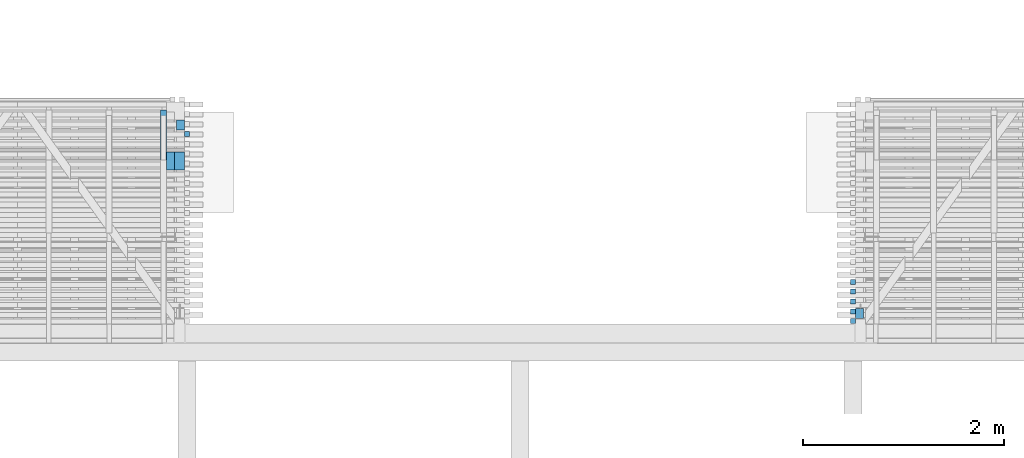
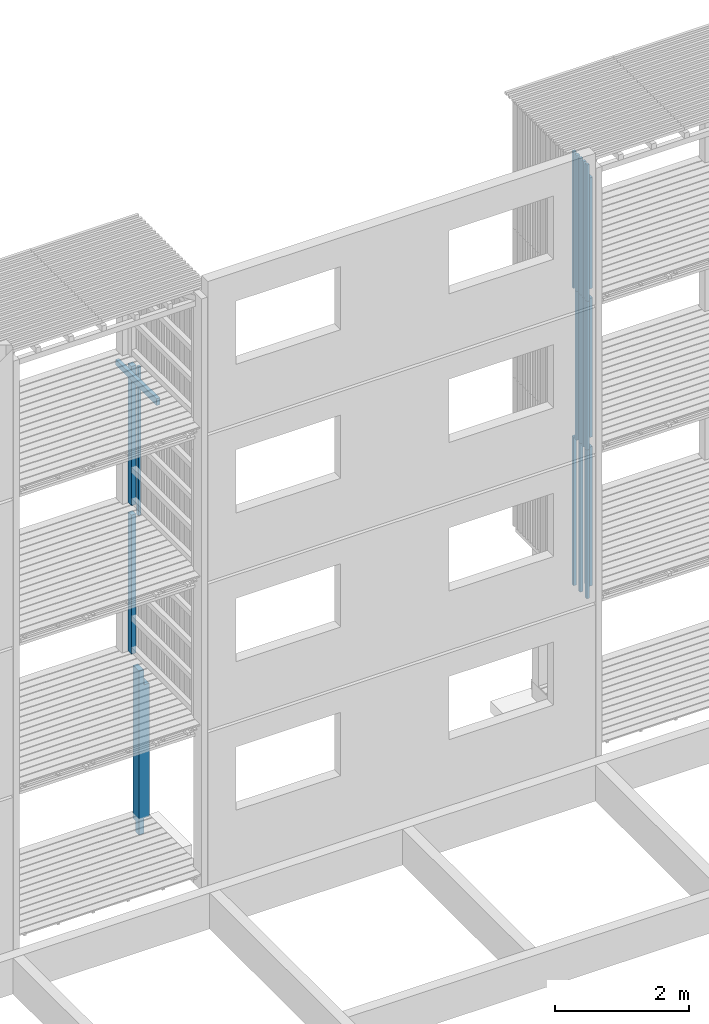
# One storey, part 109 of 182: 20 beams.
"""IFC2X3 building model written with IfcOpenShell, lengths in metres."""

import ifcopenshell
import ifcopenshell.guid

model = None  # the IFC model being written
_history = None  # IfcOwnerHistory: only IFC2X3 demands one
_inside = {}  # id of a spatial element -> (the spatial element, [elements in it])
_under = {}  # id of a project, library or spatial element -> (it, [spatial elements below it])
_declared = {}  # id of a project -> (the project, [libraries it declares])
_typed = {}  # id of a type object -> (the type object, [elements of that type])
_made_of = {}  # id of a material, layer set ... -> (it, [elements and type objects made of it])


def new_model(schema):
    """Start an empty IFC model of exactly this schema.

    Asked for "IFC4X3", IfcOpenShell would pick the latest addendum, in which some entities
    have other attributes; the version numbers below select the first issue.
    IFC2X3 requires an IfcOwnerHistory on every rooted entity: one is made here for all.
    """
    global model, _history
    if schema == "IFC4X3":
        model = ifcopenshell.file(schema_version=(4, 3, 0, 0))
    else:
        model = ifcopenshell.file(schema=schema)
    _inside.clear()
    _under.clear()
    _declared.clear()
    _typed.clear()
    _made_of.clear()
    _history = None
    if model.schema == "IFC2X3":
        org = make("IfcOrganization", Name="unknown")
        user = make(
            "IfcPersonAndOrganization",
            ThePerson=make("IfcPerson", FamilyName="unknown"),
            TheOrganization=org,
        )
        app = make(
            "IfcApplication",
            ApplicationDeveloper=org,
            Version="unknown",
            ApplicationFullName="unknown",
            ApplicationIdentifier="unknown",
        )
        _history = make(
            "IfcOwnerHistory",
            OwningUser=user,
            OwningApplication=app,
            ChangeAction="ADDED",
            CreationDate=0,
        )
    return model


def make(cls, **values):
    """One entity of the class cls with the attributes given. An attribute that is None is left unset."""
    return model.create_entity(
        cls, **{name: value for name, value in values.items() if value is not None}
    )


def rooted(cls, **values):
    """An entity with a GlobalId (a new one), such as an element, a storey or a relation."""
    return make(cls, GlobalId=ifcopenshell.guid.new(), OwnerHistory=_history, **values)


def si_unit(unit_type, name, prefix=None):
    """IfcSIUnit, for example si_unit("LENGTHUNIT", "METRE", prefix="MILLI")."""
    return make("IfcSIUnit", UnitType=unit_type, Prefix=prefix, Name=name)


def assignment(units):
    """IfcUnitAssignment: the units of a project."""
    return None if units is None else make("IfcUnitAssignment", Units=units)


def point(xyz):
    """IfcCartesianPoint."""
    return None if xyz is None else make("IfcCartesianPoint", Coordinates=xyz)


def direction(xyz):
    """IfcDirection."""
    return None if xyz is None else make("IfcDirection", DirectionRatios=xyz)


def frame(location, z_axis=None, x_axis=None):
    """IfcAxis2Placement3D, a coordinate frame: its origin and axes. An axis left out is left unset."""
    return make(
        "IfcAxis2Placement3D",
        Location=point(location),
        Axis=direction(z_axis),
        RefDirection=direction(x_axis),
    )


def origin():
    """The frame at (0, 0, 0) with its axes left unset."""
    return frame((0.0, 0.0, 0.0))


def place(relative_to, where):
    """IfcLocalPlacement: puts the frame where relative to a parent placement (None: the world)."""
    return make(
        "IfcLocalPlacement", PlacementRelTo=relative_to, RelativePlacement=where
    )


def context(
    kind, dimensions, precision=None, world=None, true_north=None, identifier=None
):
    """IfcGeometricRepresentationContext, for example the 3D "Model" context."""
    return make(
        "IfcGeometricRepresentationContext",
        ContextIdentifier=identifier,
        ContextType=kind,
        CoordinateSpaceDimension=dimensions,
        Precision=precision,
        WorldCoordinateSystem=world,
        TrueNorth=true_north,
    )


def project(units=None, contexts=None):
    """IfcProject with its units and contexts."""
    return rooted(
        "IfcProject",
        Name="project",
        RepresentationContexts=contexts,
        UnitsInContext=assignment(units),
    )


def spatial(cls, under=None, at=None, **own):
    """A site, building, storey or space (cls), placed at a placement, below another one or the project."""
    s = rooted(cls, ObjectPlacement=at, **own)
    if under is not None:
        _under.setdefault(under.id(), (under, []))[1].append(s)
    return s


def faces_of(points, faces, orient=None, outer=None):
    """IfcFace entities. A face is a list of loops; a loop is a list of indices into points, from 0.

    orient and outer hold one flag for each loop. By default every Orientation is true, the
    first loop of a face is its IfcFaceOuterBound and the others are IfcFaceBound.
    """
    made = []
    for i, loops in enumerate(faces):
        bounds = []
        for j, loop in enumerate(loops):
            is_outer = j == 0 if outer is None else outer[i][j]
            bounds.append(
                make(
                    "IfcFaceOuterBound" if is_outer else "IfcFaceBound",
                    Bound=make("IfcPolyLoop", Polygon=[points[k] for k in loop]),
                    Orientation=True if orient is None else orient[i][j],
                )
            )
        made.append(make("IfcFace", Bounds=bounds))
    return made


def faceted_brep(points, faces, orient=None, outer=None, voids=None):
    """IfcFacetedBrep: a solid bounded by flat faces; with voids (closed shells), ...WithVoids."""
    shared = [point(p) for p in points]
    hull = make("IfcClosedShell", CfsFaces=faces_of(shared, faces, orient, outer))
    if voids is None:
        return make("IfcFacetedBrep", Outer=hull)
    return make(
        "IfcFacetedBrepWithVoids",
        Outer=hull,
        Voids=[
            make(cls, CfsFaces=faces_of(shared, fs, o, b)) for cls, fs, o, b in voids
        ],
    )


def shape(context_of_items, identifier, shape_type, items):
    """IfcShapeRepresentation: the items that make up one representation, for example the "Body"."""
    return make(
        "IfcShapeRepresentation",
        ContextOfItems=context_of_items,
        RepresentationIdentifier=identifier,
        RepresentationType=shape_type,
        Items=items,
    )


def made_of(thing, what):
    """Note that an element or type object is made of a material, layer set ...; save() writes the relation."""
    if what is not None:
        _made_of.setdefault(what.id(), (what, []))[1].append(thing)
    return thing


def element(
    cls,
    number,
    at=None,
    inside=None,
    cuts=None,
    type_object=None,
    material=None,
    context=None,
    identifier="Body",
    shape_type=None,
    held_by="IfcProductDefinitionShape",
    body=None,
    shapes=None,
    **own,
):
    """One element of the class cls, such as IfcWall. Its Tag is "e" and its number.

    at: its placement. inside: the storey or other place that contains it. cuts: it is an
    opening in that element (IfcRelVoidsElement). A single representation is given by context,
    identifier, shape_type and body (its items); several are given by shapes. held_by: the class
    of the entity that holds the representations. save() writes the other relations.
    """
    e = rooted(cls, Tag="e%d" % number, ObjectPlacement=at, **own)
    if body is not None:
        shapes = [shape(context, identifier, shape_type, body)]
    if shapes is not None:
        e.Representation = make(held_by, Representations=shapes)
    if inside is not None:
        _inside.setdefault(inside.id(), (inside, []))[1].append(e)
    if cuts is not None:
        rooted(
            "IfcRelVoidsElement", RelatingBuildingElement=cuts, RelatedOpeningElement=e
        )
    if type_object is not None:
        _typed.setdefault(type_object.id(), (type_object, []))[1].append(e)
    return made_of(e, material)


def aggregate(whole, parts):
    """IfcRelAggregates: a whole, such as a stair, and the parts it consists of."""
    return rooted("IfcRelAggregates", RelatingObject=whole, RelatedObjects=parts)


def save(model, path):
    """Write the relations noted so far, then the file.

    IfcRelAggregates (storeys below a building ...), IfcRelContainedInSpatialStructure (elements
    in a storey), IfcRelDefinesByType, IfcRelAssociatesMaterial and IfcRelDeclares: one each for
    every whole, place, type object, material and project.
    """
    for whole, parts in _under.values():
        aggregate(whole, parts)
    for where, things in _inside.values():
        rooted(
            "IfcRelContainedInSpatialStructure",
            RelatedElements=things,
            RelatingStructure=where,
        )
    for kind, things in _typed.values():
        rooted("IfcRelDefinesByType", RelatedObjects=things, RelatingType=kind)
    for what, things in _made_of.values():
        rooted("IfcRelAssociatesMaterial", RelatedObjects=things, RelatingMaterial=what)
    for by, libraries in _declared.values():
        rooted("IfcRelDeclares", RelatingContext=by, RelatedDefinitions=libraries)
    model.write(path)


model = new_model("IFC2X3")

# Units and contexts
model_context = context("Model", 3, precision=1e-06, world=origin())
ifc_project = project(units=[si_unit("LENGTHUNIT", "METRE"), si_unit("PLANEANGLEUNIT", "RADIAN")], contexts=[model_context])

# Site, building, storey
site = spatial("IfcSite", under=ifc_project, CompositionType="ELEMENT")
building = spatial("IfcBuilding", under=site, CompositionType="ELEMENT")
storey = spatial("IfcBuildingStorey", under=building, Name="vs", CompositionType="ELEMENT", Elevation=-0.85)

# Beams
placement = place(None, origin())
beam_1_placement = place(placement, frame((53.06499999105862, 5.160077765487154, 2.746999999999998), z_axis=(0.0, 1.0, 0.0), x_axis=(0.0, 0.0, 1.0)))
element("IfcBeam", 1, at=beam_1_placement, inside=storey, Name="Support bardage", context=model_context, shape_type="Brep", body=[
    faceted_brep([(2.527961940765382, 0.040000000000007, -0.050000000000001), (2.527961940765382, 0.040000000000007, 0.05), (2.527961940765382, -0.039999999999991, 0.05), (2.527961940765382, -0.039999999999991, -0.050000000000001), (0.0, 0.040000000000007, -0.050000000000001), (2.527961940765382, 0.040000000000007, -0.050000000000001), (2.527961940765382, -0.039999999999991, -0.050000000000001), (0.0, -0.039999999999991, -0.050000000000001), (0.0, 0.040000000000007, -0.050000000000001), (0.0, -0.039999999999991, -0.050000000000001), (0.0, -0.039999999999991, 0.05), (0.0, 0.040000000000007, 0.05), (0.0, 0.040000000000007, -0.050000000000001), (0.0, 0.040000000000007, 0.05), (2.527961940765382, 0.040000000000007, 0.05), (2.527961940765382, 0.040000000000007, -0.050000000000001), (0.0, 0.040000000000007, 0.05), (0.0, -0.039999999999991, 0.05), (2.527961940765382, -0.039999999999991, 0.05), (2.527961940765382, 0.040000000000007, 0.05), (0.0, -0.039999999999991, 0.05), (0.0, -0.039999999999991, -0.050000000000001), (2.527961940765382, -0.039999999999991, -0.050000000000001), (2.527961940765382, -0.039999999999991, 0.05)], [[[0, 1, 2, 3]], [[4, 5, 6, 7]], [[8, 9, 10, 11]], [[12, 13, 14, 15]], [[16, 17, 18, 19]], [[20, 21, 22, 23]]]),
])
beam_2_placement = place(placement, frame((53.06499999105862, 5.160077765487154, 5.446999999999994), z_axis=(0.0, 1.0, 0.0), x_axis=(0.0, 0.0, 1.0)))
element("IfcBeam", 2, at=beam_2_placement, inside=storey, Name="Support bardage", context=model_context, shape_type="Brep", body=[
    faceted_brep([(2.527999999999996, -0.039999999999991, -0.050000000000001), (2.527999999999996, 0.040000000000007, -0.050000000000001), (2.527999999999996, 0.040000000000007, 0.05), (2.527999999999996, -0.039999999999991, 0.05), (-1e-15, -0.039999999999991, -0.050000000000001), (2.527999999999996, -0.039999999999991, -0.050000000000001), (2.527999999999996, -0.039999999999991, 0.05), (-1e-15, -0.039999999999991, 0.05), (-1e-15, -0.039999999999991, -0.050000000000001), (-1e-15, -0.039999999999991, 0.05), (-1e-15, 0.040000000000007, 0.05), (-1e-15, 0.040000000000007, -0.050000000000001), (-1e-15, -0.039999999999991, -0.050000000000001), (-1e-15, 0.040000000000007, -0.050000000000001), (2.527999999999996, 0.040000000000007, -0.050000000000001), (2.527999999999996, -0.039999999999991, -0.050000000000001), (-1e-15, 0.040000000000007, -0.050000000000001), (-1e-15, 0.040000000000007, 0.05), (2.527999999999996, 0.040000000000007, 0.05), (2.527999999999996, 0.040000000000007, -0.050000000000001), (-1e-15, 0.040000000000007, 0.05), (-1e-15, -0.039999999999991, 0.05), (2.527999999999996, -0.039999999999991, 0.05), (2.527999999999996, 0.040000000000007, 0.05)], [[[0, 1, 2, 3]], [[4, 5, 6, 7]], [[8, 9, 10, 11]], [[12, 13, 14, 15]], [[16, 17, 18, 19]], [[20, 21, 22, 23]]]),
])
beam_3_placement = place(placement, frame((52.999999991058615, 5.281441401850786, 2.575000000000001), z_axis=(1.0, 0.0, 0.0), x_axis=(0.0, 0.0, 1.0)))
element("IfcBeam", 3, at=beam_3_placement, inside=storey, Name="Bardage", context=model_context, shape_type="Brep", body=[
    faceted_brep([(2.699961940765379, -0.024999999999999, 0.025000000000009), (2.699961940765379, -0.024999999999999, -0.025000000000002), (2.699961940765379, 0.024999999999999, -0.025000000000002), (2.699961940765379, 0.024999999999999, 0.025000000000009), (0.0, -0.024999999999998, 0.025000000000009), (2.699961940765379, -0.024999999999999, 0.025000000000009), (2.699961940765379, 0.024999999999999, 0.025000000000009), (0.0, 0.024999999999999, 0.025000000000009), (0.0, -0.024999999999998, 0.025000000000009), (0.0, 0.024999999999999, 0.025000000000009), (0.0, 0.024999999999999, -0.025000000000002), (0.0, -0.024999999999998, -0.025000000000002), (0.0, -0.024999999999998, 0.025000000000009), (0.0, -0.024999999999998, -0.025000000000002), (2.699961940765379, -0.024999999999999, -0.025000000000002), (2.699961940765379, -0.024999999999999, 0.025000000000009), (0.0, -0.024999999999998, -0.025000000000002), (0.0, 0.024999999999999, -0.025000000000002), (2.699961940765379, 0.024999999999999, -0.025000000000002), (2.699961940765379, -0.024999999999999, -0.025000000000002), (0.0, 0.024999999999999, -0.025000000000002), (0.0, 0.024999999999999, 0.025000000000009), (2.699961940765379, 0.024999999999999, 0.025000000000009), (2.699961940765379, 0.024999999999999, -0.025000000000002)], [[[0, 1, 2, 3]], [[4, 5, 6, 7]], [[8, 9, 10, 11]], [[12, 13, 14, 15]], [[16, 17, 18, 19]], [[20, 21, 22, 23]]]),
])
beam_4_placement = place(placement, frame((52.999999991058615, 5.085077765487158, 5.274999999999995), z_axis=(1.0, 0.0, 0.0), x_axis=(0.0, 0.0, 1.0)))
element("IfcBeam", 4, at=beam_4_placement, inside=storey, Name="Bardage", context=model_context, shape_type="Brep", body=[
    faceted_brep([(2.699999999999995, 0.025000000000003, 0.025000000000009), (2.699999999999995, -0.024999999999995, 0.025000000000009), (2.699999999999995, -0.024999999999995, -0.025000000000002), (2.699999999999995, 0.025000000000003, -0.025000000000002), (1e-15, 0.025000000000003, 0.025000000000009), (2.699999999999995, 0.025000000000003, 0.025000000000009), (2.699999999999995, 0.025000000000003, -0.025000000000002), (1e-15, 0.025000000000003, -0.025000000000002), (1e-15, -0.024999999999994, 0.025000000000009), (1e-15, 0.025000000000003, 0.025000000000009), (1e-15, 0.025000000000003, -0.025000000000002), (1e-15, -0.024999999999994, -0.025000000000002), (1e-15, 0.025000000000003, 0.025000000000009), (1e-15, -0.024999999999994, 0.025000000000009), (2.699999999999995, -0.024999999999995, 0.025000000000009), (2.699999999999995, 0.025000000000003, 0.025000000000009), (1e-15, -0.024999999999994, 0.025000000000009), (1e-15, -0.024999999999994, -0.025000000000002), (2.699999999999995, -0.024999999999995, -0.025000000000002), (2.699999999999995, -0.024999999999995, 0.025000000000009), (1e-15, -0.024999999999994, -0.025000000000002), (1e-15, 0.025000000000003, -0.025000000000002), (2.699999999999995, 0.025000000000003, -0.025000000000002), (2.699999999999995, -0.024999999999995, -0.025000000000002)], [[[0, 1, 2, 3]], [[4, 5, 6, 7]], [[8, 9, 10, 11]], [[12, 13, 14, 15]], [[16, 17, 18, 19]], [[20, 21, 22, 23]]]),
])
beam_5_placement = place(placement, frame((52.999999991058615, 5.085077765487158, 2.575000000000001), z_axis=(1.0, 0.0, 0.0), x_axis=(0.0, 0.0, 1.0)))
element("IfcBeam", 5, at=beam_5_placement, inside=storey, Name="Bardage", context=model_context, shape_type="Brep", body=[
    faceted_brep([(2.699961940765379, -0.024999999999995, 0.025000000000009), (2.699961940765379, -0.024999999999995, -0.025000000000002), (2.699961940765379, 0.025000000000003, -0.025000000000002), (2.699961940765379, 0.025000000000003, 0.025000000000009), (0.0, -0.024999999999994, 0.025000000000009), (2.699961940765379, -0.024999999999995, 0.025000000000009), (2.699961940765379, 0.025000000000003, 0.025000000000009), (0.0, 0.025000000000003, 0.025000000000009), (0.0, -0.024999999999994, 0.025000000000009), (0.0, 0.025000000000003, 0.025000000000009), (0.0, 0.025000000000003, -0.025000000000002), (0.0, -0.024999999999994, -0.025000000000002), (0.0, -0.024999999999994, 0.025000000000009), (0.0, -0.024999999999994, -0.025000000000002), (2.699961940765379, -0.024999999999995, -0.025000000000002), (2.699961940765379, -0.024999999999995, 0.025000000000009), (0.0, -0.024999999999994, -0.025000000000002), (0.0, 0.025000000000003, -0.025000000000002), (2.699961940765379, 0.025000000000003, -0.025000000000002), (2.699961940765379, -0.024999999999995, -0.025000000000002), (0.0, 0.025000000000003, -0.025000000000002), (0.0, 0.025000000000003, 0.025000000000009), (2.699961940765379, 0.025000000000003, 0.025000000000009), (2.699961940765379, 0.025000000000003, -0.025000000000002)], [[[0, 1, 2, 3]], [[4, 5, 6, 7]], [[8, 9, 10, 11]], [[12, 13, 14, 15]], [[16, 17, 18, 19]], [[20, 21, 22, 23]]]),
])
beam_6_placement = place(placement, frame((52.999999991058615, 5.281441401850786, 7.974999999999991), z_axis=(1.0, 0.0, 0.0), x_axis=(0.0, 0.0, 1.0)))
element("IfcBeam", 6, at=beam_6_placement, inside=storey, Name="Bardage", context=model_context, shape_type="Brep", body=[
    faceted_brep([(0.0, -0.024999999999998, 0.025000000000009), (0.0, 0.024999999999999, 0.025000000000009), (0.0, 0.024999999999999, -0.025000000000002), (0.0, -0.024999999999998, -0.025000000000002), (2.479999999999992, 0.024999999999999, -0.025000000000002), (2.479999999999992, 0.024999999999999, 0.025000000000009), (2.479999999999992, -0.024999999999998, 0.025000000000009), (2.479999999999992, -0.024999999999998, -0.025000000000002), (0.0, 0.024999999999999, 0.025000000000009), (0.0, -0.024999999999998, 0.025000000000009), (2.479999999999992, -0.024999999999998, 0.025000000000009), (2.479999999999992, 0.024999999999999, 0.025000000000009), (0.0, 0.024999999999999, -0.025000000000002), (0.0, 0.024999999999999, 0.025000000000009), (2.479999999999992, 0.024999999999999, 0.025000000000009), (2.479999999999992, 0.024999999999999, -0.025000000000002), (0.0, -0.024999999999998, -0.025000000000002), (0.0, 0.024999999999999, -0.025000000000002), (2.479999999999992, 0.024999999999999, -0.025000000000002), (2.479999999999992, -0.024999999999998, -0.025000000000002), (2.479999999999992, -0.024999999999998, 0.025000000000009), (0.0, -0.024999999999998, 0.025000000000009), (0.0, -0.024999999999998, -0.025000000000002), (2.479999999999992, -0.024999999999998, -0.025000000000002)], [[[0, 1, 2, 3]], [[4, 5, 6, 7]], [[8, 9, 10, 11]], [[12, 13, 14, 15]], [[16, 17, 18, 19]], [[20, 21, 22, 23]]]),
])
beam_7_placement = place(placement, frame((52.999999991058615, 5.085077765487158, 7.974999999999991), z_axis=(1.0, 0.0, 0.0), x_axis=(0.0, 0.0, 1.0)))
element("IfcBeam", 7, at=beam_7_placement, inside=storey, Name="Bardage", context=model_context, shape_type="Brep", body=[
    faceted_brep([(0.0, -0.024999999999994, 0.025000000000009), (0.0, 0.025000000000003, 0.025000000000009), (0.0, 0.025000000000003, -0.025000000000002), (0.0, -0.024999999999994, -0.025000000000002), (2.479999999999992, 0.025000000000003, -0.025000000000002), (2.479999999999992, 0.025000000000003, 0.025000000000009), (2.479999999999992, -0.024999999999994, 0.025000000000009), (2.479999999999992, -0.024999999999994, -0.025000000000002), (0.0, 0.025000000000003, 0.025000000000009), (0.0, -0.024999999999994, 0.025000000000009), (2.479999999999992, -0.024999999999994, 0.025000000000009), (2.479999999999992, 0.025000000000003, 0.025000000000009), (0.0, 0.025000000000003, -0.025000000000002), (0.0, 0.025000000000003, 0.025000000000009), (2.479999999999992, 0.025000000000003, 0.025000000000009), (2.479999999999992, 0.025000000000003, -0.025000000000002), (0.0, -0.024999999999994, -0.025000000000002), (0.0, 0.025000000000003, -0.025000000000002), (2.479999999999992, 0.025000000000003, -0.025000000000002), (2.479999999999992, -0.024999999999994, -0.025000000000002), (2.479999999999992, -0.024999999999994, 0.025000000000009), (0.0, -0.024999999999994, 0.025000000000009), (0.0, -0.024999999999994, -0.025000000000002), (2.479999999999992, -0.024999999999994, -0.025000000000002)], [[[0, 1, 2, 3]], [[4, 5, 6, 7]], [[8, 9, 10, 11]], [[12, 13, 14, 15]], [[16, 17, 18, 19]], [[20, 21, 22, 23]]]),
])
for number, where, z_axis, x_axis in (
    (8, (52.999999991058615, 5.183259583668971, 7.974999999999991), (1.0, 0.0, 0.0), (0.0, 0.0, 1.0)),
    (9, (52.999999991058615, 5.477805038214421, 7.974999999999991), (1.0, 0.0, 0.0), (0.0, 0.0, 1.0)),
):
    element("IfcBeam", number, at=place(placement, frame(where, z_axis=z_axis, x_axis=x_axis)), inside=storey, Name="Bardage", context=model_context, shape_type="Brep", body=[
        faceted_brep([(0.0, -0.024999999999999, 0.025000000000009), (0.0, 0.025000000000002, 0.025000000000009), (0.0, 0.025000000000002, -0.025000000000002), (0.0, -0.024999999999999, -0.025000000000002), (2.479999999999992, 0.025000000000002, -0.025000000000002), (2.479999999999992, 0.025000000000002, 0.025000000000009), (2.479999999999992, -0.024999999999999, 0.025000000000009), (2.479999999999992, -0.024999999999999, -0.025000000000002), (0.0, 0.025000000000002, 0.025000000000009), (0.0, -0.024999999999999, 0.025000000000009), (2.479999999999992, -0.024999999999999, 0.025000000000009), (2.479999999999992, 0.025000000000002, 0.025000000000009), (0.0, 0.025000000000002, -0.025000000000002), (0.0, 0.025000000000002, 0.025000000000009), (2.479999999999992, 0.025000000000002, 0.025000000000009), (2.479999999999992, 0.025000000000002, -0.025000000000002), (0.0, -0.024999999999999, -0.025000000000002), (0.0, 0.025000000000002, -0.025000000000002), (2.479999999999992, 0.025000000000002, -0.025000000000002), (2.479999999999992, -0.024999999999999, -0.025000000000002), (2.479999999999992, -0.024999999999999, 0.025000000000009), (0.0, -0.024999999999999, 0.025000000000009), (0.0, -0.024999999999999, -0.025000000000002), (2.479999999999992, -0.024999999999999, -0.025000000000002)], [[[0, 1, 2, 3]], [[4, 5, 6, 7]], [[8, 9, 10, 11]], [[12, 13, 14, 15]], [[16, 17, 18, 19]], [[20, 21, 22, 23]]]),
    ])
beam_8_placement = place(placement, frame((52.999999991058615, 5.281441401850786, 5.274999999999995), z_axis=(1.0, 0.0, 0.0), x_axis=(0.0, 0.0, 1.0)))
element("IfcBeam", 10, at=beam_8_placement, inside=storey, Name="Bardage", context=model_context, shape_type="Brep", body=[
    faceted_brep([(2.699999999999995, 0.024999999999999, 0.025000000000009), (2.699999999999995, -0.024999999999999, 0.025000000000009), (2.699999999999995, -0.024999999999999, -0.025000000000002), (2.699999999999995, 0.024999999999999, -0.025000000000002), (1e-15, 0.024999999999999, 0.025000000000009), (2.699999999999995, 0.024999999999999, 0.025000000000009), (2.699999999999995, 0.024999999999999, -0.025000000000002), (1e-15, 0.024999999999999, -0.025000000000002), (1e-15, -0.024999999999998, 0.025000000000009), (1e-15, 0.024999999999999, 0.025000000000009), (1e-15, 0.024999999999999, -0.025000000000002), (1e-15, -0.024999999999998, -0.025000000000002), (1e-15, 0.024999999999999, 0.025000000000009), (1e-15, -0.024999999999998, 0.025000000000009), (2.699999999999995, -0.024999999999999, 0.025000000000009), (2.699999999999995, 0.024999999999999, 0.025000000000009), (1e-15, -0.024999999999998, 0.025000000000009), (1e-15, -0.024999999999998, -0.025000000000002), (2.699999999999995, -0.024999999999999, -0.025000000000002), (2.699999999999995, -0.024999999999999, 0.025000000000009), (1e-15, -0.024999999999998, -0.025000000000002), (1e-15, 0.024999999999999, -0.025000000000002), (2.699999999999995, 0.024999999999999, -0.025000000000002), (2.699999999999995, -0.024999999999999, -0.025000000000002)], [[[0, 1, 2, 3]], [[4, 5, 6, 7]], [[8, 9, 10, 11]], [[12, 13, 14, 15]], [[16, 17, 18, 19]], [[20, 21, 22, 23]]]),
])
beam_9_placement = place(placement, frame((52.999999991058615, 5.379623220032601, 5.274999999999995), z_axis=(1.0, 0.0, 0.0), x_axis=(0.0, 1e-15, 1.0)))
element("IfcBeam", 11, at=beam_9_placement, inside=storey, Name="Bardage", context=model_context, shape_type="Brep", body=[
    faceted_brep([(2.699999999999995, 0.025000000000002, 0.025000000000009), (2.699999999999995, -0.024999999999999, 0.025000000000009), (2.699999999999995, -0.024999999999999, -0.025000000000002), (2.699999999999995, 0.025000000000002, -0.025000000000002), (1e-15, 0.024999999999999, 0.025000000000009), (2.699999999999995, 0.025000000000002, 0.025000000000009), (2.699999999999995, 0.025000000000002, -0.025000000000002), (1e-15, 0.024999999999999, -0.025000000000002), (1e-15, -0.025000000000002, 0.025000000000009), (1e-15, 0.024999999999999, 0.025000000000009), (1e-15, 0.024999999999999, -0.025000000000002), (1e-15, -0.025000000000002, -0.025000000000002), (1e-15, 0.024999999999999, 0.025000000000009), (1e-15, -0.025000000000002, 0.025000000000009), (2.699999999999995, -0.024999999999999, 0.025000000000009), (2.699999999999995, 0.025000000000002, 0.025000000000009), (1e-15, -0.025000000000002, 0.025000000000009), (1e-15, -0.025000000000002, -0.025000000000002), (2.699999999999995, -0.024999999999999, -0.025000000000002), (2.699999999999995, -0.024999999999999, 0.025000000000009), (1e-15, -0.025000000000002, -0.025000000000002), (1e-15, 0.024999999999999, -0.025000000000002), (2.699999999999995, 0.025000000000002, -0.025000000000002), (2.699999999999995, -0.024999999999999, -0.025000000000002)], [[[0, 1, 2, 3]], [[4, 5, 6, 7]], [[8, 9, 10, 11]], [[12, 13, 14, 15]], [[16, 17, 18, 19]], [[20, 21, 22, 23]]]),
])
beam_10_placement = place(placement, frame((52.999999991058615, 5.477805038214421, 2.575000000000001), z_axis=(1.0, 0.0, 0.0), x_axis=(0.0, 0.0, 1.0)))
element("IfcBeam", 12, at=beam_10_placement, inside=storey, Name="Bardage", context=model_context, shape_type="Brep", body=[
    faceted_brep([(2.699961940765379, -0.024999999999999, 0.025000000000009), (2.699961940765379, -0.024999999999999, -0.025000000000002), (2.699961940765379, 0.025000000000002, -0.025000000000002), (2.699961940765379, 0.025000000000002, 0.025000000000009), (0.0, -0.024999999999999, 0.025000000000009), (2.699961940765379, -0.024999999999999, 0.025000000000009), (2.699961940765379, 0.025000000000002, 0.025000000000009), (0.0, 0.025000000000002, 0.025000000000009), (0.0, -0.024999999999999, 0.025000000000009), (0.0, 0.025000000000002, 0.025000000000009), (0.0, 0.025000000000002, -0.025000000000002), (0.0, -0.024999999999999, -0.025000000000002), (0.0, -0.024999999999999, 0.025000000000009), (0.0, -0.024999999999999, -0.025000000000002), (2.699961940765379, -0.024999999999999, -0.025000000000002), (2.699961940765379, -0.024999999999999, 0.025000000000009), (0.0, -0.024999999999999, -0.025000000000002), (0.0, 0.025000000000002, -0.025000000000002), (2.699961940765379, 0.025000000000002, -0.025000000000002), (2.699961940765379, -0.024999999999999, -0.025000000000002), (0.0, 0.025000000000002, -0.025000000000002), (0.0, 0.025000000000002, 0.025000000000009), (2.699961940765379, 0.025000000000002, 0.025000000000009), (2.699961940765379, 0.025000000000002, -0.025000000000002)], [[[0, 1, 2, 3]], [[4, 5, 6, 7]], [[8, 9, 10, 11]], [[12, 13, 14, 15]], [[16, 17, 18, 19]], [[20, 21, 22, 23]]]),
])
beam_11_placement = place(placement, frame((52.999999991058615, 5.183259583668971, 5.274999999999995), z_axis=(1.0, 0.0, 0.0), x_axis=(0.0, 0.0, 1.0)))
element("IfcBeam", 13, at=beam_11_placement, inside=storey, Name="Bardage", context=model_context, shape_type="Brep", body=[
    faceted_brep([(2.699999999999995, 0.025000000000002, 0.025000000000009), (2.699999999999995, -0.024999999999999, 0.025000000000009), (2.699999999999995, -0.024999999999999, -0.025000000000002), (2.699999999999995, 0.025000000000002, -0.025000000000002), (1e-15, 0.025000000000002, 0.025000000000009), (2.699999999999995, 0.025000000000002, 0.025000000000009), (2.699999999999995, 0.025000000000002, -0.025000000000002), (1e-15, 0.025000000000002, -0.025000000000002), (1e-15, -0.024999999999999, 0.025000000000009), (1e-15, 0.025000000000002, 0.025000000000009), (1e-15, 0.025000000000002, -0.025000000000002), (1e-15, -0.024999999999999, -0.025000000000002), (1e-15, 0.025000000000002, 0.025000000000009), (1e-15, -0.024999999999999, 0.025000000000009), (2.699999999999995, -0.024999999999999, 0.025000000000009), (2.699999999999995, 0.025000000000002, 0.025000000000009), (1e-15, -0.024999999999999, 0.025000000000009), (1e-15, -0.024999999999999, -0.025000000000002), (2.699999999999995, -0.024999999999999, -0.025000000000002), (2.699999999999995, -0.024999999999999, 0.025000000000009), (1e-15, -0.024999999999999, -0.025000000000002), (1e-15, 0.025000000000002, -0.025000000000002), (2.699999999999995, 0.025000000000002, -0.025000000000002), (2.699999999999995, -0.024999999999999, -0.025000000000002)], [[[0, 1, 2, 3]], [[4, 5, 6, 7]], [[8, 9, 10, 11]], [[12, 13, 14, 15]], [[16, 17, 18, 19]], [[20, 21, 22, 23]]]),
])
beam_12_placement = place(placement, frame((53.06499999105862, 5.160077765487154, 8.14699999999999), z_axis=(0.0, 1.0, 0.0), x_axis=(0.0, 0.0, 1.0)))
element("IfcBeam", 14, at=beam_12_placement, inside=storey, Name="Support bardage", context=model_context, shape_type="Brep", body=[
    faceted_brep([(2.017999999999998, -0.039999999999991, 0.05), (2.017999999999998, -0.039999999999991, -0.050000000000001), (2.017999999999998, 0.040000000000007, -0.050000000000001), (2.017999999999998, 0.040000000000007, 0.05), (1e-15, -0.039999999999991, -0.050000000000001), (1e-15, -0.039999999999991, 0.05), (1e-15, 0.040000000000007, 0.05), (1e-15, 0.040000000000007, -0.050000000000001), (2.017999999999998, 0.040000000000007, -0.050000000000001), (2.017999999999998, -0.039999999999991, -0.050000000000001), (1e-15, -0.039999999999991, -0.050000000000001), (1e-15, 0.040000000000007, -0.050000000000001), (1e-15, -0.039999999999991, -0.050000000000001), (2.017999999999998, -0.039999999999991, -0.050000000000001), (2.017999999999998, -0.039999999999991, 0.05), (1e-15, -0.039999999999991, 0.05), (1e-15, -0.039999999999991, 0.05), (2.017999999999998, -0.039999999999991, 0.05), (2.017999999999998, 0.040000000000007, 0.05), (1e-15, 0.040000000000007, 0.05), (1e-15, 0.040000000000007, 0.05), (2.017999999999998, 0.040000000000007, 0.05), (2.017999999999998, 0.040000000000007, -0.050000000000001), (1e-15, 0.040000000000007, -0.050000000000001)], [[[0, 1, 2, 3]], [[4, 5, 6, 7]], [[8, 9, 10, 11]], [[12, 13, 14, 15]], [[16, 17, 18, 19]], [[20, 21, 22, 23]]]),
])
beam_13_placement = place(placement, frame((52.999999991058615, 5.379623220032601, 7.974999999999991), z_axis=(1.0, 0.0, 0.0), x_axis=(0.0, 1e-15, 1.0)))
element("IfcBeam", 15, at=beam_13_placement, inside=storey, Name="Bardage", context=model_context, shape_type="Brep", body=[
    faceted_brep([(0.0, -0.025000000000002, 0.025000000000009), (0.0, 0.024999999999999, 0.025000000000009), (0.0, 0.024999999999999, -0.025000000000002), (0.0, -0.025000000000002, -0.025000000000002), (2.479999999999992, 0.025000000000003, -0.025000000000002), (2.479999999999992, 0.025000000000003, 0.025000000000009), (2.479999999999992, -0.024999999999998, 0.025000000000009), (2.479999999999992, -0.024999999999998, -0.025000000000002), (0.0, 0.024999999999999, 0.025000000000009), (0.0, -0.025000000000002, 0.025000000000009), (2.479999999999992, -0.024999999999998, 0.025000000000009), (2.479999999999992, 0.025000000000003, 0.025000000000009), (0.0, 0.024999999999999, -0.025000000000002), (0.0, 0.024999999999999, 0.025000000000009), (2.479999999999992, 0.025000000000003, 0.025000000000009), (2.479999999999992, 0.025000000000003, -0.025000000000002), (0.0, -0.025000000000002, -0.025000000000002), (0.0, 0.024999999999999, -0.025000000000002), (2.479999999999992, 0.025000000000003, -0.025000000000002), (2.479999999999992, -0.024999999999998, -0.025000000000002), (2.479999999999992, -0.024999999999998, 0.025000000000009), (0.0, -0.025000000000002, 0.025000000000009), (0.0, -0.025000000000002, -0.025000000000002), (2.479999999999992, -0.024999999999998, -0.025000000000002)], [[[0, 1, 2, 3]], [[4, 5, 6, 7]], [[8, 9, 10, 11]], [[12, 13, 14, 15]], [[16, 17, 18, 19]], [[20, 21, 22, 23]]]),
])
beam_14_placement = place(placement, frame((46.25540135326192, 6.680077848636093, -0.26), z_axis=(0.0, -1.0, 0.0), x_axis=(0.0, 0.0, 1.0)))
element("IfcBeam", 16, at=beam_14_placement, inside=storey, Name="Poteau", context=model_context, shape_type="Brep", body=[
    faceted_brep([(2.699999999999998, -0.09, -0.09), (2.699999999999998, -0.09, 0.09), (0.28, -0.09, 0.09), (0.280000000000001, -0.09, -0.09), (0.0, 0.090000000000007, 0.09), (0.0, 0.090000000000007, -0.009999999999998), (0.0, 0.010000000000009, -0.009999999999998), (0.0, 0.010000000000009, 0.09), (0.280000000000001, -0.09, -0.09), (0.28, -0.09, 0.09), (0.28, 0.010000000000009, 0.09), (0.28, 0.010000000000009, -0.09), (0.200000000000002, 0.090000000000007, -0.09), (0.200000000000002, 0.010000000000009, -0.09), (0.200000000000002, 0.010000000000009, -0.009999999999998), (0.200000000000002, 0.090000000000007, -0.009999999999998), (0.200000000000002, 0.090000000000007, -0.009999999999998), (0.200000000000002, 0.010000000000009, -0.009999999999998), (0.0, 0.010000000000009, -0.009999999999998), (0.0, 0.090000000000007, -0.009999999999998), (0.0, 0.010000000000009, -0.009999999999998), (0.200000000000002, 0.010000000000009, -0.009999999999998), (0.200000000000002, 0.010000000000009, -0.09), (0.28, 0.010000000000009, -0.09), (0.28, 0.010000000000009, 0.09), (0.0, 0.010000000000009, 0.09), (2.979999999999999, 0.010000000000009, -0.09), (2.699999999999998, 0.010000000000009, -0.09), (2.699999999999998, -0.09, -0.09), (0.280000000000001, -0.09, -0.09), (0.28, 0.010000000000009, -0.09), (0.200000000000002, 0.010000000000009, -0.09), (0.200000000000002, 0.090000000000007, -0.09), (2.979999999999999, 0.090000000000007, -0.09), (2.979999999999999, 0.090000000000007, -0.09), (0.200000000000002, 0.090000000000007, -0.09), (0.200000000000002, 0.090000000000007, -0.009999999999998), (0.0, 0.090000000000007, -0.009999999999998), (0.0, 0.090000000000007, 0.09), (2.979999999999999, 0.090000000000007, 0.09), (2.699999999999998, 0.010000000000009, 0.09), (2.979999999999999, 0.010000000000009, 0.09), (2.979999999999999, 0.090000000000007, 0.09), (0.0, 0.090000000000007, 0.09), (0.0, 0.010000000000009, 0.09), (0.28, 0.010000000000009, 0.09), (0.28, -0.09, 0.09), (2.699999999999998, -0.09, 0.09), (2.979999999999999, 0.090000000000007, -0.09), (2.979999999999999, 0.090000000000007, 0.09), (2.979999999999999, 0.010000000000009, 0.09), (2.979999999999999, 0.010000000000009, -0.09), (2.979999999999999, 0.010000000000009, -0.09), (2.979999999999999, 0.010000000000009, 0.09), (2.699999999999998, 0.010000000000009, 0.09), (2.699999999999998, 0.010000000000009, -0.09), (2.699999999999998, 0.010000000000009, -0.09), (2.699999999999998, 0.010000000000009, 0.09), (2.699999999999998, -0.09, 0.09), (2.699999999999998, -0.09, -0.09)], [[[0, 1, 2, 3]], [[4, 5, 6, 7]], [[8, 9, 10, 11]], [[12, 13, 14, 15]], [[16, 17, 18, 19]], [[20, 21, 22, 23, 24, 25]], [[26, 27, 28, 29, 30, 31, 32, 33]], [[34, 35, 36, 37, 38, 39]], [[40, 41, 42, 43, 44, 45, 46, 47]], [[48, 49, 50, 51]], [[52, 53, 54, 55]], [[56, 57, 58, 59]]]),
])
beam_15_placement = place(placement, frame((46.30540135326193, 7.040077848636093, 5.446999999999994), z_axis=(0.0, -1.0, 0.0), x_axis=(0.0, 0.0, 1.0)))
element("IfcBeam", 17, at=beam_15_placement, inside=storey, Name="Support bardage", context=model_context, shape_type="Brep", body=[
    faceted_brep([(2.527999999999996, -0.039999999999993, 0.050000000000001), (2.527999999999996, -0.039999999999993, -0.05), (2.527999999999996, 0.04000000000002, -0.05), (2.527999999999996, 0.04000000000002, 0.050000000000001), (0.0, 0.04000000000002, 0.050000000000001), (0.0, -0.039999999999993, 0.050000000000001), (2.527999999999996, -0.039999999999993, 0.050000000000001), (2.527999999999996, 0.04000000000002, 0.050000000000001), (0.0, -0.039999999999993, 0.050000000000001), (0.0, 0.04000000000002, 0.050000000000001), (0.0, 0.04000000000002, -0.05), (0.0, -0.039999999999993, -0.05), (2.527999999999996, -0.039999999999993, 0.050000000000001), (0.0, -0.039999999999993, 0.050000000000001), (0.0, -0.039999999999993, -0.05), (2.527999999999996, -0.039999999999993, -0.05), (2.527999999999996, -0.039999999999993, -0.05), (0.0, -0.039999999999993, -0.05), (0.0, 0.04000000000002, -0.05), (2.527999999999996, 0.04000000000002, -0.05), (2.527999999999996, 0.04000000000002, -0.05), (0.0, 0.04000000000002, -0.05), (0.0, 0.04000000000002, 0.050000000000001), (2.527999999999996, 0.04000000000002, 0.050000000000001)], [[[0, 1, 2, 3]], [[4, 5, 6, 7]], [[8, 9, 10, 11]], [[12, 13, 14, 15]], [[16, 17, 18, 19]], [[20, 21, 22, 23]]]),
])
beam_16_placement = place(placement, frame((46.135401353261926, 5.965077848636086, 8.00424999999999), z_axis=(0.0, 0.0, 1.0), x_axis=(-1.2e-14, 1.0, 0.0)))
element("IfcBeam", 18, at=beam_16_placement, inside=storey, Name="Solive", context=model_context, shape_type="Brep", body=[
    faceted_brep([(-1e-15, -0.029999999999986, 0.061850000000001), (-1e-15, -0.029999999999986, -0.061849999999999), (1.225000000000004, -0.03, -0.061849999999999), (1.225000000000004, -0.03, 0.037349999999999), (-1e-15, -0.029999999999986, -0.061849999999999), (-1e-15, -0.029999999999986, 0.061850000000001), (0.0, 0.030000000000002, 0.061849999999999), (0.0, 0.030000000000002, -0.061849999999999), (1.225000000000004, -0.03, -0.061849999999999), (-1e-15, -0.029999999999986, -0.061849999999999), (0.0, 0.030000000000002, -0.061849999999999), (1.225000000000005, 0.029999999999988, -0.061849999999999), (1.225000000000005, 0.029999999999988, 0.037349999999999), (1.225000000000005, 0.029999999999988, -0.061849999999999), (0.0, 0.030000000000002, -0.061849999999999), (0.0, 0.030000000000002, 0.061849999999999), (1.225000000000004, -0.03, 0.037349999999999), (1.225000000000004, -0.03, -0.061849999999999), (1.225000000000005, 0.029999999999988, -0.061849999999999), (1.225000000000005, 0.029999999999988, 0.037349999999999), (1.225000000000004, -0.03, 0.037349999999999), (1.225000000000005, 0.029999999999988, 0.037349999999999), (0.0, 0.030000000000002, 0.061849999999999), (-1e-15, -0.029999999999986, 0.061850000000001)], [[[0, 1, 2, 3]], [[4, 5, 6, 7]], [[8, 9, 10, 11]], [[12, 13, 14, 15]], [[16, 17, 18, 19]], [[20, 21, 22, 23]]]),
])
beam_17_placement = place(placement, frame((46.30540135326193, 7.040077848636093, 2.746999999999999), z_axis=(0.0, -1.0, 0.0), x_axis=(0.0, 0.0, 1.0)))
element("IfcBeam", 19, at=beam_17_placement, inside=storey, Name="Support bardage", context=model_context, shape_type="Brep", body=[
    faceted_brep([(2.527961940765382, -0.039999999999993, -0.05), (2.527961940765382, 0.04000000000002, -0.05), (2.527961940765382, 0.04000000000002, 0.050000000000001), (2.527961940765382, -0.039999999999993, 0.050000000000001), (0.0, -0.039999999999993, 0.050000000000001), (0.0, -0.039999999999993, -0.05), (2.527961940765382, -0.039999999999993, -0.05), (2.527961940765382, -0.039999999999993, 0.050000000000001), (0.0, -0.039999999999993, -0.05), (0.0, -0.039999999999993, 0.050000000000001), (0.0, 0.04000000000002, 0.050000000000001), (0.0, 0.04000000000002, -0.05), (2.527961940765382, -0.039999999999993, -0.05), (0.0, -0.039999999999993, -0.05), (0.0, 0.04000000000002, -0.05), (2.527961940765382, 0.04000000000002, -0.05), (2.527961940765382, 0.04000000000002, -0.05), (0.0, 0.04000000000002, -0.05), (0.0, 0.04000000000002, 0.050000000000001), (2.527961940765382, 0.04000000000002, 0.050000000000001), (2.527961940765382, 0.04000000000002, 0.050000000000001), (0.0, 0.04000000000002, 0.050000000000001), (0.0, -0.039999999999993, 0.050000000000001), (2.527961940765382, -0.039999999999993, 0.050000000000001)], [[[0, 1, 2, 3]], [[4, 5, 6, 7]], [[8, 9, 10, 11]], [[12, 13, 14, 15]], [[16, 17, 18, 19]], [[20, 21, 22, 23]]]),
])
beam_18_placement = place(placement, frame((46.37040135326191, 6.950532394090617, 5.274999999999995), z_axis=(-1.0, 0.0, 0.0), x_axis=(0.0, 0.0, 1.0)))
element("IfcBeam", 20, at=beam_18_placement, inside=storey, Name="Bardage", context=model_context, shape_type="Brep", body=[
    faceted_brep([(1e-15, -0.025000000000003, 0.024999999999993), (1e-15, 0.024999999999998, 0.024999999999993), (1e-15, 0.024999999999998, -0.025000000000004), (1e-15, -0.025000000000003, -0.025000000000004), (2.699999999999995, -0.025000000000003, -0.025000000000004), (2.699999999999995, 0.024999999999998, -0.025000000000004), (2.699999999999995, 0.024999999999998, 0.024999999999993), (2.699999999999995, -0.025000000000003, 0.024999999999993), (1e-15, -0.025000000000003, 0.024999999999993), (1e-15, -0.025000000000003, -0.025000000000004), (2.699999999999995, -0.025000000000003, -0.025000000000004), (2.699999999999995, -0.025000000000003, 0.024999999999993), (2.699999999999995, -0.025000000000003, -0.025000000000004), (1e-15, -0.025000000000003, -0.025000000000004), (1e-15, 0.024999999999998, -0.025000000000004), (2.699999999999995, 0.024999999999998, -0.025000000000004), (2.699999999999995, 0.024999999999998, -0.025000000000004), (1e-15, 0.024999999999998, -0.025000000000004), (1e-15, 0.024999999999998, 0.024999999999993), (2.699999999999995, 0.024999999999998, 0.024999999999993), (2.699999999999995, 0.024999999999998, 0.024999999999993), (1e-15, 0.024999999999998, 0.024999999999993), (1e-15, -0.025000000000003, 0.024999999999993), (2.699999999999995, -0.025000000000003, 0.024999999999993)], [[[0, 1, 2, 3]], [[4, 5, 6, 7]], [[8, 9, 10, 11]], [[12, 13, 14, 15]], [[16, 17, 18, 19]], [[20, 21, 22, 23]]]),
])

save(model, "model.ifc")
